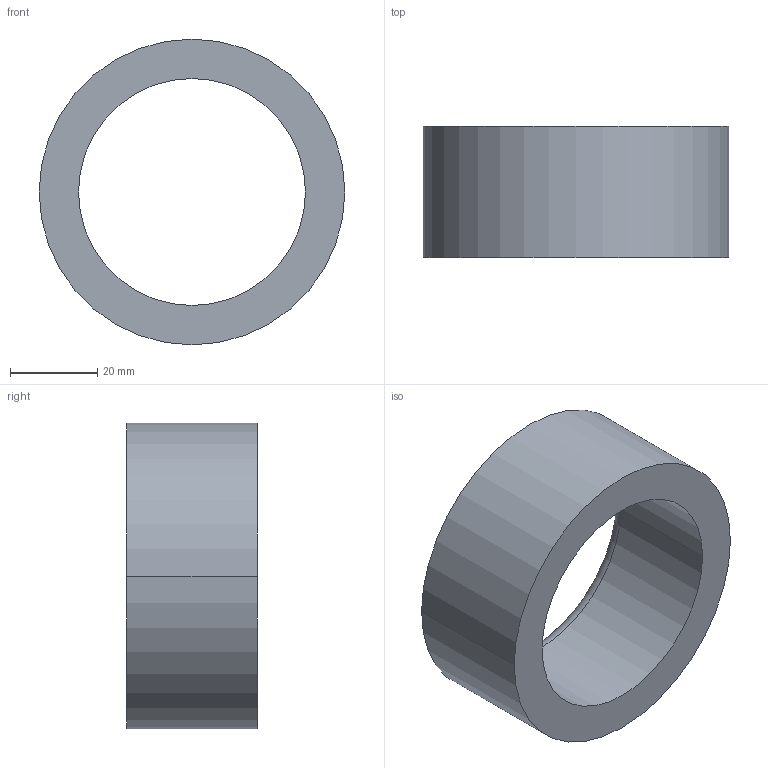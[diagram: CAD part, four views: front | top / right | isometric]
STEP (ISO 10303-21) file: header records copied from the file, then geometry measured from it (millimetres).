
FILE_DESCRIPTION (( 'STEP AP203' ), '1' );
FILE_NAME ('30800.WPP70L52.0.step', '2019-01-23T23:00:23', ( '' ), ( '' ), 'SwSTEP 2.0', 'SolidWorks 2017', '' );
FILE_SCHEMA (( 'CONFIG_CONTROL_DESIGN' ));
Length unit declared in the file: millimetre
Products named in the file (1): 30800.WPP70L52.0
Bounding box: 70 x 30 x 70 mm (x, y, z)
Volume: 51299.7 mm3; surface area: 14707.7 mm2
Topology: 1 solids, 1 shells, 8 faces, 16 edges, 10 vertices
Faces by surface type: cylinder 4, torus 2, plane 2
Entity records: 297 total; most frequent: DIRECTION 46, CARTESIAN_POINT 35, ORIENTED_EDGE 32, AXIS2_PLACEMENT_3D 21, EDGE_CURVE 16, CIRCLE 12, EDGE_LOOP 10, VERTEX_POINT 10
